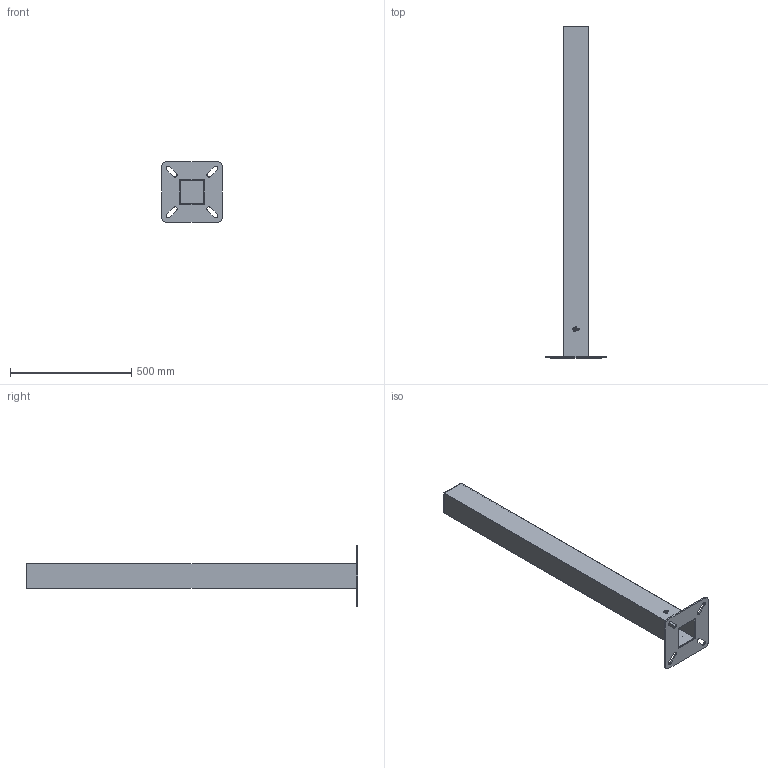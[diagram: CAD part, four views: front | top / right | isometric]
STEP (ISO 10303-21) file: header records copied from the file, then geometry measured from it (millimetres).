
FILE_DESCRIPTION (( 'STEP AP214' ), '1' );
FILE_NAME ('ACPE000030_C-WEB.STEP', '2025-02-26T19:57:02', ( '' ), ( '' ), 'SwSTEP 2.0', 'SolidWorks 2022', '' );
FILE_SCHEMA (( 'AUTOMOTIVE_DESIGN' ));
Length unit declared in the file: millimetre
Products named in the file (7): PRLP1114_D_X2_00e9_X0_faut; PRLP1109_D_X2_00e9_X0_faut; ACPE000030_C-WEB; MEDS0895-02_D_X2_00e9_X0_faut; MEDS0895_D_X2_00e9_X0_faut; MEDS0895-01_D_X2_00e9_X0_faut; MEDS0895-03_D_X2_00e9_X0_faut_Brut d''''usinage_
Assembly tree (6 placements, depth 3):
  ACPE000030_C-WEB
    MEDS0895_D_X2_00e9_X0_faut
      MEDS0895-02_D_X2_00e9_X0_faut
      MEDS0895-03_D_X2_00e9_X0_faut_Brut d''''usinage_
      MEDS0895-01_D_X2_00e9_X0_faut
    PRLP1114_D_X2_00e9_X0_faut
    PRLP1109_D_X2_00e9_X0_faut
Bounding box: 250 x 1371.55 x 250 mm (x, y, z)
Volume: 2041646.2 mm3; surface area: 1208724.1 mm2
Topology: 5 solids, 5 shells, 160 faces, 439 edges, 293 vertices
Faces by surface type: plane 84, bspline 56, cylinder 20
Entity records: 7438 total; most frequent: CARTESIAN_POINT 1671, ORIENTED_EDGE 878, DIRECTION 594, EDGE_CURVE 439, VERTEX_POINT 293, VECTOR 286, LINE 286, UNCERTAINTY_MEASURE_WITH_UNIT 177
